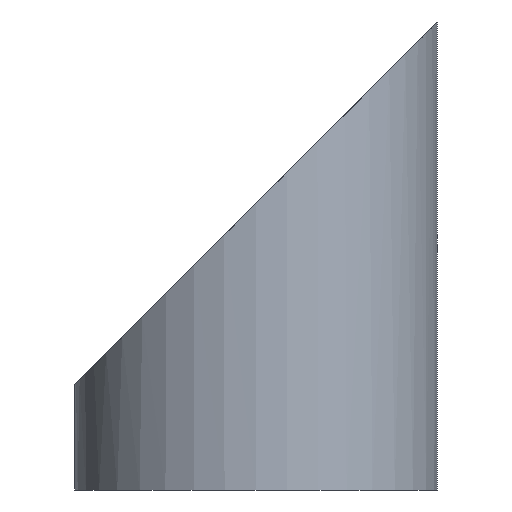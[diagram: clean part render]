
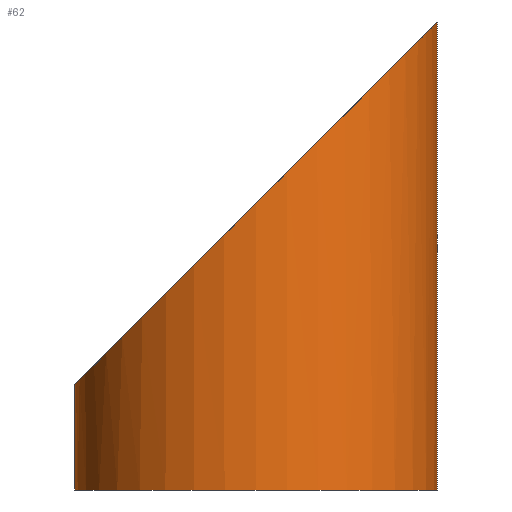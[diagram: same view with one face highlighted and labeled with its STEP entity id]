
A CAD part, front view. The second image highlights one B-rep face of the part: STEP entity #62.
In plain terms, the highlighted cylindrical face has radius 12.5 mm (diameter 25 mm), a partial arc.
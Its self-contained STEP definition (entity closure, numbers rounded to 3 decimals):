
#6 = VECTOR ( 'NONE', #124, 1000. ) ;
#7 = CARTESIAN_POINT ( 'NONE',  ( -12.5, 0., 50. ) ) ;
#9 = AXIS2_PLACEMENT_3D ( 'NONE', #74, #49, #199 ) ;
#15 = CARTESIAN_POINT ( 'NONE',  ( 12.5, -25., 22.297 ) ) ;
#28 = ORIENTED_EDGE ( 'NONE', *, *, #105, .F. ) ;
#29 = FACE_OUTER_BOUND ( 'NONE', #156, .T. ) ;
#36 = ORIENTED_EDGE ( 'NONE', *, *, #193, .T. ) ;
#40 = CARTESIAN_POINT ( 'NONE',  ( 12.5, 0., -10. ) ) ;
#49 = DIRECTION ( 'NONE',  ( 0., 0., 1. ) ) ;
#53 = VERTEX_POINT ( 'NONE', #40 ) ;
#60 = LINE ( 'NONE', #93, #6 ) ;
#62 = ADVANCED_FACE ( 'NONE', ( #29 ), #78, .T. ) ;
#67 = EDGE_CURVE ( 'NONE', #68, #196, #158, .T. ) ;
#68 = VERTEX_POINT ( 'NONE', #107 ) ;
#71 = DIRECTION ( 'NONE',  ( -1., 0., 0. ) ) ;
#74 = CARTESIAN_POINT ( 'NONE',  ( 0., 0., -10. ) ) ;
#75 = DIRECTION ( 'NONE',  ( 0., 0., -1. ) ) ;
#78 = CYLINDRICAL_SURFACE ( 'NONE', #110, 12.5 ) ;
#87 = ORIENTED_EDGE ( 'NONE', *, *, #165, .T. ) ;
#90 = CARTESIAN_POINT ( 'NONE',  ( 0., 0., 50. ) ) ;
#93 = CARTESIAN_POINT ( 'NONE',  ( 12.5, 0., 50. ) ) ;
#95 = CARTESIAN_POINT ( 'NONE',  ( 12.5, 0., 22.297 ) ) ;
#97 = CIRCLE ( 'NONE', #9, 12.5 ) ;
#102 = VERTEX_POINT ( 'NONE', #122 ) ;
#105 = EDGE_CURVE ( 'NONE', #196, #53, #60, .T. ) ;
#107 = CARTESIAN_POINT ( 'NONE',  ( -12.5, 0., -2.703 ) ) ;
#110 = AXIS2_PLACEMENT_3D ( 'NONE', #90, #75, #71 ) ;
#113 = VECTOR ( 'NONE', #132, 1000. ) ;
#116 = ORIENTED_EDGE ( 'NONE', *, *, #67, .F. ) ;
#122 = CARTESIAN_POINT ( 'NONE',  ( -12.5, 0., -10. ) ) ;
#124 = DIRECTION ( 'NONE',  ( 0., 0., -1. ) ) ;
#132 = DIRECTION ( 'NONE',  ( 0., 0., -1. ) ) ;
#155 = CARTESIAN_POINT ( 'NONE',  ( -12.5, 0., -2.703 ) ) ;
#156 = EDGE_LOOP ( 'NONE', ( #28, #116, #36, #87 ) ) ;
#158 =( BOUNDED_CURVE ( )  B_SPLINE_CURVE ( 3, ( #155, #188, #15, #175 ),
 .UNSPECIFIED., .F., .F. ) 
 B_SPLINE_CURVE_WITH_KNOTS ( ( 4, 4 ),
 ( 0., 3.142 ),
 .UNSPECIFIED. ) 
 CURVE ( )  GEOMETRIC_REPRESENTATION_ITEM ( )  RATIONAL_B_SPLINE_CURVE ( ( 1., 0.333, 0.333, 1. ) ) 
 REPRESENTATION_ITEM ( '' )  );
#161 = LINE ( 'NONE', #7, #113 ) ;
#165 = EDGE_CURVE ( 'NONE', #102, #53, #97, .T. ) ;
#175 = CARTESIAN_POINT ( 'NONE',  ( 12.5, 0., 22.297 ) ) ;
#188 = CARTESIAN_POINT ( 'NONE',  ( -12.5, -25., -2.703 ) ) ;
#193 = EDGE_CURVE ( 'NONE', #68, #102, #161, .T. ) ;
#196 = VERTEX_POINT ( 'NONE', #95 ) ;
#199 = DIRECTION ( 'NONE',  ( -1., 0., 0. ) ) ;
